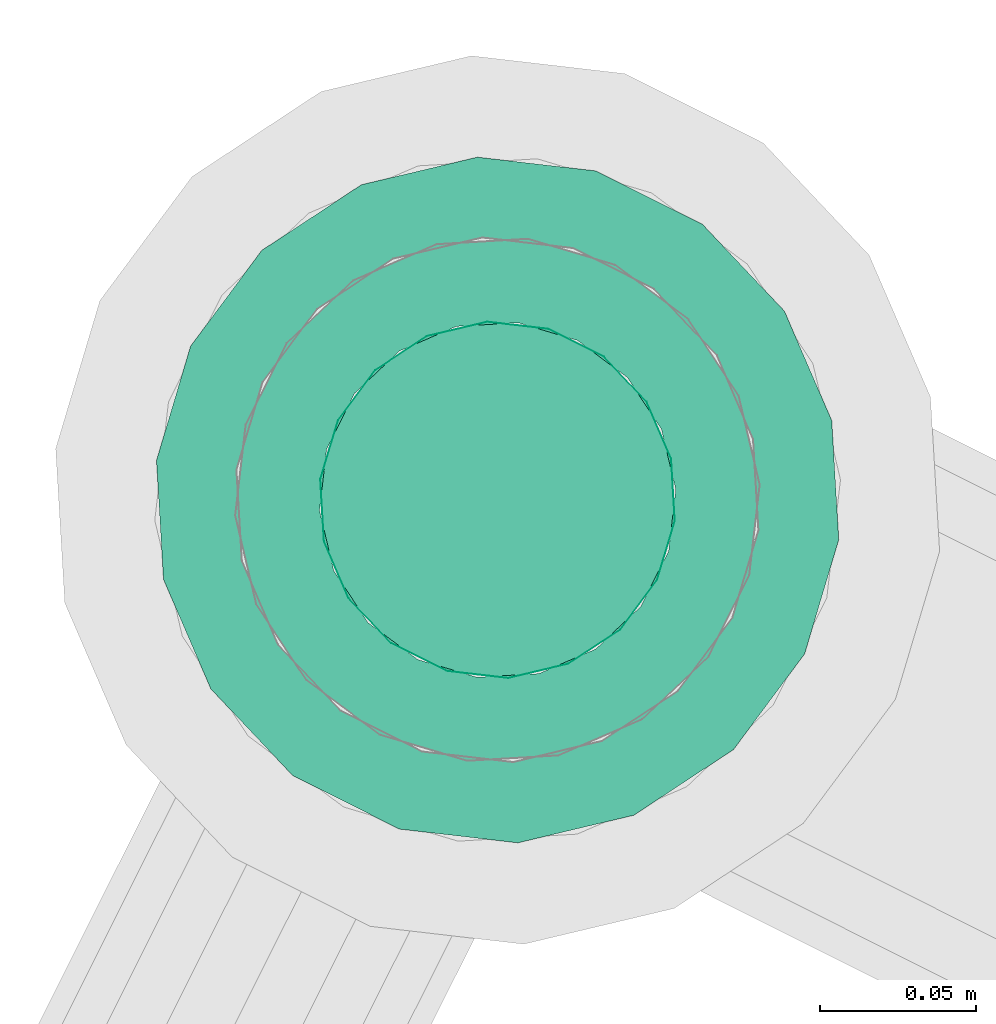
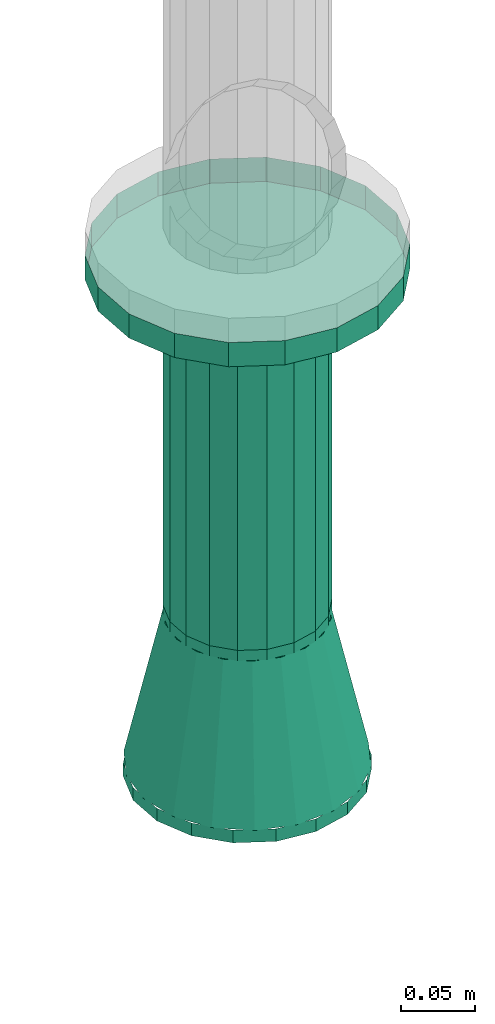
# One storey, part 66 of 152: 2 flow fittings, 1 flow segment.
"""IFC2X3 building model written with IfcOpenShell, lengths in metres."""

from ifc_helpers import new_model, si_unit, derived_unit, direction, frame, origin, place, context, subcontext, project, spatial, face_set, surface_model, source, transform, mapped, material, type_object, type_shapes, element, save


model = new_model("IFC2X3")

# Units and contexts
model_context = context("Model", 3, precision=5.2338327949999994e-05, world=origin(), true_north=direction((0.0, 1.0)))
body_context = subcontext(model_context, "Body", "Model", "MODEL_VIEW")
ifc_project = project(units=[si_unit("LENGTHUNIT", "METRE"), si_unit("AREAUNIT", "SQUARE_METRE"), si_unit("VOLUMEUNIT", "CUBIC_METRE"), si_unit("MASSUNIT", "GRAM", prefix="KILO"), si_unit("PLANEANGLEUNIT", "RADIAN"), derived_unit("THERMALTRANSMITTANCEUNIT", [(si_unit("MASSUNIT", "GRAM", prefix="KILO"), 1), (si_unit("THERMODYNAMICTEMPERATUREUNIT", "KELVIN"), -1), (si_unit("TIMEUNIT", "SECOND"), -3)])], contexts=[model_context])

# Site, building, storey
site_placement = place(None, frame((0.0, 0.0, 0.0), z_axis=(0.0, 0.0, 1.0), x_axis=(0.8939966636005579, -0.4480736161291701, 0.0)))
site = spatial("IfcSite", under=ifc_project, at=site_placement, Name="Default", CompositionType="ELEMENT")
building_placement = place(site_placement, origin())
building = spatial("IfcBuilding", under=site, at=building_placement, CompositionType="ELEMENT")
storey_placement = place(building_placement, frame((0.0, 0.0, 2.7499999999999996)))
storey = spatial("IfcBuildingStorey", under=building, at=storey_placement, Name="1. Obergeschoss", CompositionType="ELEMENT", Elevation=2.7499999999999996)

# Flow fitting
ifc_material = material(Name="IfcSurfaceStyle #1741")
distribution_element_type_1 = type_object("IfcDistributionElementType", Name="Übergangsstück 311059:Übergangsstück 311059", material=ifc_material)
shared_shape_1 = source(origin(), body_context, "Body", "SurfaceModel", [
    surface_model("IfcFaceBasedSurfaceModel", [(20.435130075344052, 8.451283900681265, 3.0829999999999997), (20.430055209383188, 8.480064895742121, 3.0829999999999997), (20.430055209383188, 8.480064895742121, 3.093459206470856), (20.435130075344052, 8.451283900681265, 3.093459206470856), (20.415442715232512, 8.505374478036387, 3.0829999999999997), (20.415442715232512, 8.505374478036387, 3.093459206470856), (20.393055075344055, 8.524159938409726, 3.0829999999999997), (20.393055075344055, 8.524159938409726, 3.093459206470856), (20.36559256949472, 8.534155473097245, 3.0829999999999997), (20.36559256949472, 8.534155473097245, 3.093459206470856), (20.33636758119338, 8.534155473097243, 3.0829999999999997), (20.33636758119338, 8.534155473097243, 3.093459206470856), (20.308905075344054, 8.524159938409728, 3.0829999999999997), (20.308905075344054, 8.524159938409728, 3.093459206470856), (20.286517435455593, 8.505374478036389, 3.0829999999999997), (20.286517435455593, 8.505374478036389, 3.093459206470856), (20.271904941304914, 8.480064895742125, 3.0829999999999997), (20.271904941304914, 8.480064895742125, 3.093459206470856), (20.266830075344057, 8.451283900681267, 3.0829999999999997), (20.266830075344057, 8.451283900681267, 3.093459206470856), (20.271904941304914, 8.42250290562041, 3.0829999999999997), (20.271904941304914, 8.42250290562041, 3.093459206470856), (20.28651743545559, 8.397193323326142, 3.0829999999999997), (20.28651743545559, 8.397193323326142, 3.093459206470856), (20.308905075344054, 8.378407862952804, 3.0829999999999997), (20.308905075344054, 8.378407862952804, 3.093459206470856), (20.33636758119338, 8.36841232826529, 3.0829999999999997), (20.33636758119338, 8.36841232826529, 3.093459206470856), (20.36559256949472, 8.36841232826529, 3.0829999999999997), (20.36559256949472, 8.36841232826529, 3.093459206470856), (20.39305507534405, 8.378407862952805, 3.0829999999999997), (20.39305507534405, 8.378407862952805, 3.093459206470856), (20.415442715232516, 8.397193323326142, 3.0829999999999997), (20.415442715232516, 8.397193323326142, 3.093459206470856), (20.43005520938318, 8.42250290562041, 3.0829999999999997), (20.43005520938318, 8.42250290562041, 3.093459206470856), (20.35098007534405, 8.535433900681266, 3.093459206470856), (20.322199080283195, 8.5303590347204, 3.093459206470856), (20.331433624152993, 8.504987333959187, 3.2143805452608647), (20.350980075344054, 8.508433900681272, 3.2143805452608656), (20.29688949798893, 8.515746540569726, 3.093459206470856), (20.31424476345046, 8.495063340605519, 3.2143805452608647), (20.278104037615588, 8.493358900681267, 3.0934592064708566), (20.301486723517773, 8.479858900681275, 3.2143805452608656), (20.268108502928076, 8.465896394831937, 3.0934592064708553), (20.2946983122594, 8.461207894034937, 3.214380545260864), (20.268108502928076, 8.436671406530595, 3.093459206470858), (20.294698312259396, 8.441359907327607, 3.2143805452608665), (20.278104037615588, 8.409208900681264, 3.0934592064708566), (20.30148672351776, 8.422708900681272, 3.2143805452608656), (20.296889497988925, 8.386821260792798, 3.0934592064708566), (20.31424476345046, 8.407504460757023, 3.2143805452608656), (20.32219908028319, 8.372208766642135, 3.0934592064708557), (20.331433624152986, 8.39758046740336, 3.2143805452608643), (20.35098007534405, 8.367133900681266, 3.093459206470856), (20.35098007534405, 8.39413390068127, 3.2143805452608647), (20.379761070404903, 8.372208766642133, 3.093459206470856), (20.370526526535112, 8.397580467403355, 3.2143805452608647), (20.405070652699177, 8.386821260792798, 3.0934592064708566), (20.38771538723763, 8.407504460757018, 3.2143805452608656), (20.42385611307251, 8.409208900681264, 3.0934592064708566), (20.400473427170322, 8.422708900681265, 3.2143805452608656), (20.433851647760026, 8.436671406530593, 3.093459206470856), (20.407261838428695, 8.4413599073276, 3.2143805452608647), (20.43385164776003, 8.465896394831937, 3.093459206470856), (20.4072618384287, 8.461207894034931, 3.2143805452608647), (20.423856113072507, 8.493358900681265, 3.093459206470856), (20.400473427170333, 8.479858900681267, 3.2143805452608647), (20.40507065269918, 8.515746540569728, 3.093459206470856), (20.387715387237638, 8.495063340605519, 3.2143805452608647), (20.379761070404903, 8.530359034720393, 3.0934592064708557), (20.370526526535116, 8.504987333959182, 3.2143805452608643), (20.408130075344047, 8.451283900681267, 3.2143805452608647), (20.404683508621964, 8.47083035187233, 3.2143805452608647), (20.404683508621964, 8.47083035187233, 3.223), (20.408130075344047, 8.451283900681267, 3.223), (20.394759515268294, 8.488019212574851, 3.2143805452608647), (20.394759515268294, 8.488019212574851, 3.223), (20.379555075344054, 8.500777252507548, 3.2143805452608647), (20.379555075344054, 8.500777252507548, 3.223), (20.360904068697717, 8.507565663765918, 3.2143805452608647), (20.360904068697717, 8.507565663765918, 3.223), (20.341056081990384, 8.507565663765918, 3.2143805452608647), (20.341056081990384, 8.507565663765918, 3.223), (20.322405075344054, 8.500777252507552, 3.2143805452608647), (20.322405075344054, 8.500777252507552, 3.223), (20.307200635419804, 8.488019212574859, 3.2143805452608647), (20.307200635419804, 8.488019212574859, 3.223), (20.29727664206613, 8.470830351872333, 3.2143805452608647), (20.29727664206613, 8.470830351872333, 3.223), (20.293830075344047, 8.451283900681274, 3.2143805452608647), (20.29383007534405, 8.451283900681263, 3.223), (20.29727664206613, 8.431737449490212, 3.2143805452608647), (20.29727664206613, 8.431737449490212, 3.223), (20.307200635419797, 8.414548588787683, 3.2143805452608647), (20.307200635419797, 8.414548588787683, 3.223), (20.32240507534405, 8.401790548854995, 3.2143805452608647), (20.32240507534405, 8.401790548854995, 3.223), (20.341056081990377, 8.39500213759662, 3.2143805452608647), (20.341056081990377, 8.39500213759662, 3.223), (20.360904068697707, 8.395002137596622, 3.2143805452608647), (20.360904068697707, 8.395002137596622, 3.223), (20.379555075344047, 8.40179054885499, 3.2143805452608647), (20.379555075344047, 8.40179054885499, 3.223), (20.394759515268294, 8.41454858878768, 3.2143805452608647), (20.394759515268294, 8.41454858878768, 3.223), (20.40468350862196, 8.431737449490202, 3.2143805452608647), (20.40468350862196, 8.431737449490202, 3.223)], [face_set([[[0, 1, 2, 3]], [[1, 4, 5, 2]], [[4, 6, 7, 5]], [[6, 8, 9, 7]], [[8, 10, 11, 9]], [[10, 12, 13, 11]], [[12, 14, 15, 13]], [[14, 16, 17, 15]], [[16, 18, 19, 17]], [[18, 20, 21, 19]], [[20, 22, 23, 21]], [[22, 24, 25, 23]], [[24, 26, 27, 25]], [[26, 28, 29, 27]], [[28, 30, 31, 29]], [[30, 32, 33, 31]], [[32, 34, 35, 33]], [[34, 0, 3, 35]], [[36, 37, 38, 39]], [[37, 40, 41, 38]], [[40, 42, 43, 41]], [[42, 44, 45, 43]], [[44, 46, 47, 45]], [[46, 48, 49, 47]], [[48, 50, 51, 49]], [[50, 52, 53, 51]], [[52, 54, 55, 53]], [[54, 56, 57, 55]], [[56, 58, 59, 57]], [[58, 60, 61, 59]], [[60, 62, 63, 61]], [[62, 64, 65, 63]], [[64, 66, 67, 65]], [[66, 68, 69, 67]], [[68, 70, 71, 69]], [[70, 36, 39, 71]], [[72, 73, 74, 75]], [[73, 76, 77, 74]], [[76, 78, 79, 77]], [[78, 80, 81, 79]], [[80, 82, 83, 81]], [[82, 84, 85, 83]], [[84, 86, 87, 85]], [[86, 88, 89, 87]], [[88, 90, 91, 89]], [[90, 92, 93, 91]], [[92, 94, 95, 93]], [[94, 96, 97, 95]], [[96, 98, 99, 97]], [[98, 100, 101, 99]], [[100, 102, 103, 101]], [[102, 104, 105, 103]], [[104, 106, 107, 105]], [[106, 72, 75, 107]]])]),
])
type_shapes(distribution_element_type_1, [shared_shape_1])
flow_fitting_1_placement = place(storey_placement, frame((0.0, 0.0, -2.7499999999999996)))
element("IfcFlowFitting", 1, at=flow_fitting_1_placement, inside=storey, type_object=distribution_element_type_1, material=ifc_material, Name="Übergangsstück", ObjectType="Übergangsstück", context=body_context, shape_type="MappedRepresentation", body=[
    mapped(shared_shape_1, transform((0.0, 0.0, 0.0), scale=1.0)),
])

# Flow segment
distribution_element_type_2 = type_object("IfcDistributionElementType", Name="Stahlrohr nach DIN 2448 311373:Stahlrohr nach DIN 2448 311373", material=ifc_material)
shared_shape_2 = source(origin(), body_context, "Body", "SurfaceModel", [
    surface_model("IfcFaceBasedSurfaceModel", [(20.293830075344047, 8.451283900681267, 3.223), (20.297276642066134, 8.431737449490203, 3.223), (20.297276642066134, 8.431737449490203, 3.461870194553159), (20.293830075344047, 8.451283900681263, 3.461870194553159), (20.3072006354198, 8.41454858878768, 3.223), (20.307200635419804, 8.41454858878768, 3.461870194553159), (20.322405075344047, 8.401790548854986, 3.223), (20.322405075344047, 8.401790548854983, 3.461870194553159), (20.34105608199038, 8.395002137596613, 3.223), (20.341056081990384, 8.395002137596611, 3.461870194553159), (20.36090406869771, 8.395002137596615, 3.223), (20.360904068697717, 8.395002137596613, 3.461870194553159), (20.379555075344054, 8.401790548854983, 3.223), (20.37955507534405, 8.401790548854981, 3.461870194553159), (20.394759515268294, 8.41454858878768, 3.223), (20.394759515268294, 8.414548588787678, 3.461870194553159), (20.404683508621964, 8.431737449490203, 3.223), (20.404683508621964, 8.431737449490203, 3.461870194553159), (20.40813007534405, 8.451283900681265, 3.223), (20.40813007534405, 8.451283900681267, 3.461870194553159), (20.404683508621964, 8.470830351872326, 3.223), (20.404683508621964, 8.470830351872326, 3.461870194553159), (20.394759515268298, 8.488019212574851, 3.223), (20.394759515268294, 8.488019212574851, 3.461870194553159), (20.379555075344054, 8.500777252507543, 3.223), (20.379555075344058, 8.500777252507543, 3.461870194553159), (20.360904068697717, 8.507565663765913, 3.223), (20.36090406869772, 8.507565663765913, 3.461870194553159), (20.341056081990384, 8.507565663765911, 3.223), (20.341056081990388, 8.507565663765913, 3.461870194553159), (20.322405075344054, 8.500777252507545, 3.223), (20.322405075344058, 8.500777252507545, 3.461870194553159), (20.3072006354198, 8.48801921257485, 3.223), (20.307200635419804, 8.48801921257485, 3.461870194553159), (20.297276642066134, 8.470830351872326, 3.223), (20.29727664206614, 8.470830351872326, 3.461870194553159)], [face_set([[[0, 1, 2, 3]], [[1, 4, 5, 2]], [[4, 6, 7, 5]], [[6, 8, 9, 7]], [[8, 10, 11, 9]], [[10, 12, 13, 11]], [[12, 14, 15, 13]], [[14, 16, 17, 15]], [[16, 18, 19, 17]], [[18, 20, 21, 19]], [[20, 22, 23, 21]], [[22, 24, 25, 23]], [[24, 26, 27, 25]], [[26, 28, 29, 27]], [[28, 30, 31, 29]], [[30, 32, 33, 31]], [[32, 34, 35, 33]], [[34, 0, 3, 35]]])]),
])
type_shapes(distribution_element_type_2, [shared_shape_2])
flow_segment_placement = place(storey_placement, frame((0.0, 0.0, -2.7499999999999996)))
element("IfcFlowSegment", 2, at=flow_segment_placement, inside=storey, type_object=distribution_element_type_2, material=ifc_material, Name="Stahlrohr nach DIN 2448", ObjectType="Stahlrohr nach DIN 2448", context=body_context, shape_type="MappedRepresentation", body=[
    mapped(shared_shape_2, transform((0.0, 0.0, 0.0), scale=1.0)),
])

# Flow fitting
distribution_element_type_3 = type_object("IfcDistributionElementType", Name="Flansch 311528:Flansch 311528", material=ifc_material)
shared_shape_3 = source(origin(), body_context, "Body", "SurfaceModel", [
    surface_model("IfcFaceBasedSurfaceModel", [(20.35098007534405, 8.394133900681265, 3.4618701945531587), (20.370526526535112, 8.397580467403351, 3.461870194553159), (20.373382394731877, 8.389734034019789, 3.493870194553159), (20.35098007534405, 8.385783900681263, 3.493870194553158), (20.387715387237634, 8.407504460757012, 3.4618701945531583), (20.393082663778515, 8.40110798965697, 3.4938701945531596), (20.400473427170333, 8.422708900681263, 3.4618701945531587), (20.407704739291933, 8.418533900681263, 3.493870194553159), (20.4072618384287, 8.441359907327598, 3.4618701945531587), (20.415484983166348, 8.439909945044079, 3.4938701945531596), (20.4072618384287, 8.461207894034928, 3.4618701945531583), (20.41548498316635, 8.462657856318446, 3.4938701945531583), (20.400473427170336, 8.479858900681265, 3.4618701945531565), (20.407704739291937, 8.484033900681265, 3.493870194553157), (20.387715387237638, 8.495063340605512, 3.4618701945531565), (20.393082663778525, 8.501459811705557, 3.493870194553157), (20.370526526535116, 8.504987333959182, 3.4618701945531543), (20.373382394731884, 8.512833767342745, 3.4938701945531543), (20.350980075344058, 8.508433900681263, 3.461870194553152), (20.350980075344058, 8.516783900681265, 3.493870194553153), (20.33143362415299, 8.504987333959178, 3.461870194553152), (20.32857775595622, 8.512833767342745, 3.493870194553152), (20.314244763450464, 8.495063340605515, 3.461870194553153), (20.308877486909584, 8.501459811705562, 3.493870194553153), (20.301486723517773, 8.47985890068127, 3.461870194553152), (20.294255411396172, 8.48403390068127, 3.4938701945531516), (20.294698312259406, 8.461207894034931, 3.461870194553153), (20.28647516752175, 8.462657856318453, 3.4938701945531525), (20.2946983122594, 8.441359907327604, 3.461870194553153), (20.28647516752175, 8.439909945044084, 3.4938701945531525), (20.30148672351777, 8.422708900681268, 3.4618701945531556), (20.294255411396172, 8.41853390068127, 3.4938701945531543), (20.31424476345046, 8.407504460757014, 3.4618701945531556), (20.30887748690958, 8.401107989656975, 3.4938701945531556), (20.331433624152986, 8.39758046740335, 3.461870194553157), (20.328577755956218, 8.389734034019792, 3.4938701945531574), (20.240980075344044, 8.45128390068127, 3.4938701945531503), (20.247613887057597, 8.413661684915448, 3.4938701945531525), (20.247613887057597, 8.413661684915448, 3.5138701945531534), (20.240980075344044, 8.45128390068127, 3.513870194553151), (20.266715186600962, 8.380577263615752, 3.4938701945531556), (20.266715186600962, 8.380577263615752, 3.5138701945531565), (20.29598007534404, 8.35602110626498, 3.493870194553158), (20.295980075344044, 8.356021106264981, 3.513870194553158), (20.331878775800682, 8.342955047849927, 3.49387019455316), (20.331878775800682, 8.342955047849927, 3.51387019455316), (20.37008137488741, 8.342955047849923, 3.493870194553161), (20.37008137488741, 8.342955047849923, 3.513870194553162), (20.405980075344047, 8.356021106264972, 3.4938701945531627), (20.405980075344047, 8.356021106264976, 3.5138701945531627), (20.435244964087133, 8.380577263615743, 3.4938701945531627), (20.435244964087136, 8.380577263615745, 3.5138701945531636), (20.4543462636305, 8.413661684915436, 3.4938701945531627), (20.4543462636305, 8.413661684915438, 3.513870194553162), (20.46098007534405, 8.451283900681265, 3.493870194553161), (20.46098007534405, 8.451283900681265, 3.513870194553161), (20.454346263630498, 8.488906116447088, 3.493870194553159), (20.454346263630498, 8.488906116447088, 3.5138701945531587), (20.435244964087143, 8.521990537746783, 3.4938701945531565), (20.435244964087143, 8.521990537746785, 3.5138701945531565), (20.405980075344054, 8.546546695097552, 3.4938701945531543), (20.405980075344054, 8.546546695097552, 3.513870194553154), (20.370081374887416, 8.55961275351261, 3.493870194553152), (20.370081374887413, 8.55961275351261, 3.513870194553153), (20.331878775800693, 8.55961275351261, 3.4938701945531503), (20.331878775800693, 8.559612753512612, 3.5138701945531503), (20.295980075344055, 8.546546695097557, 3.4938701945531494), (20.295980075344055, 8.546546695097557, 3.513870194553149), (20.266715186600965, 8.521990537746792, 3.4938701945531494), (20.26671518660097, 8.521990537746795, 3.5138701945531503), (20.247613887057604, 8.488906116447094, 3.49387019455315), (20.247613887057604, 8.488906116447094, 3.5138701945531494), (20.35098007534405, 8.451283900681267, 3.493870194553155)], [face_set([[[0, 1, 2, 3]], [[1, 4, 5, 2]], [[4, 6, 7, 5]], [[6, 8, 9, 7]], [[8, 10, 11, 9]], [[10, 12, 13, 11]], [[12, 14, 15, 13]], [[14, 16, 17, 15]], [[16, 18, 19, 17]], [[18, 20, 21, 19]], [[20, 22, 23, 21]], [[22, 24, 25, 23]], [[24, 26, 27, 25]], [[26, 28, 29, 27]], [[28, 30, 31, 29]], [[30, 32, 33, 31]], [[32, 34, 35, 33]], [[34, 0, 3, 35]], [[36, 37, 38, 39]], [[37, 40, 41, 38]], [[40, 42, 43, 41]], [[42, 44, 45, 43]], [[44, 46, 47, 45]], [[46, 48, 49, 47]], [[48, 50, 51, 49]], [[50, 52, 53, 51]], [[52, 54, 55, 53]], [[54, 56, 57, 55]], [[56, 58, 59, 57]], [[58, 60, 61, 59]], [[60, 62, 63, 61]], [[62, 64, 65, 63]], [[64, 66, 67, 65]], [[66, 68, 69, 67]], [[68, 70, 71, 69]], [[70, 36, 39, 71]], [[72, 37, 36]], [[72, 40, 37]], [[72, 42, 40]], [[72, 44, 42]], [[72, 46, 44]], [[72, 48, 46]], [[72, 50, 48]], [[72, 52, 50]], [[72, 54, 52]], [[72, 56, 54]], [[72, 58, 56]], [[72, 60, 58]], [[72, 62, 60]], [[72, 64, 62]], [[72, 66, 64]], [[72, 68, 66]], [[72, 70, 68]], [[72, 36, 70]]])]),
])
type_shapes(distribution_element_type_3, [shared_shape_3])
flow_fitting_2_placement = place(storey_placement, frame((0.0, 0.0, -2.7499999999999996)))
element("IfcFlowFitting", 3, at=flow_fitting_2_placement, inside=storey, type_object=distribution_element_type_3, material=ifc_material, Name="Flansch", ObjectType="Flansch", context=body_context, shape_type="MappedRepresentation", body=[
    mapped(shared_shape_3, transform((0.0, 0.0, 0.0), scale=1.0)),
])

save(model, "model.ifc")
